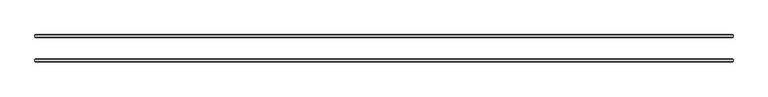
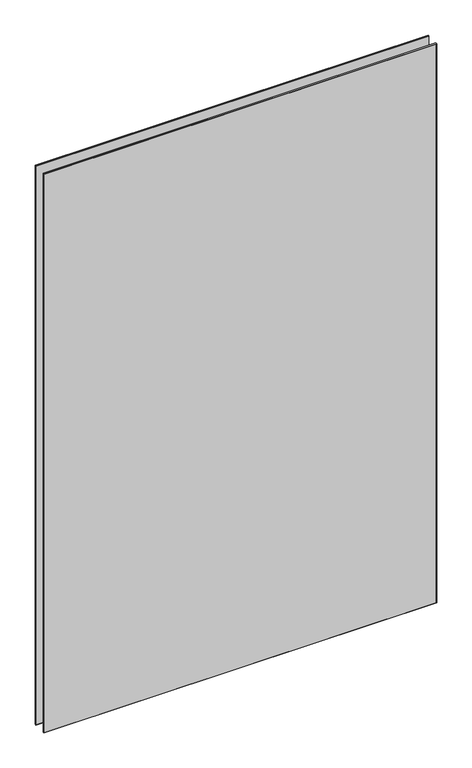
"""IFC4 building model written with IfcOpenShell, lengths in millimetres: plate geometry, 3-AMG-2-Панель двойной витраж 8, 10 : Смещение 32 Толщина 8mm."""

from ifc_helpers import new_model, si_unit, origin, place, context, project, spatial, faceted_brep, source, transform, mapped, element, save


def plate_b24c7fcb(model_context):
    return source(origin(), model_context, "Body", "Brep", [
        faceted_brep([(919.1479348, -34.4961653, 2751.0), (919.1479348, -29.5038347, 2751.0), (-914.1479348, -29.5038347, 2751.0), (-914.1479348, -34.4961653, 2751.0), (919.1479348, -29.5038347, -7.0), (919.1479348, -34.4961653, -7.0), (-914.1479348, -34.4961653, -7.0), (-914.1479348, -29.5038347, -7.0), (-912.6441001, -28.0, 2749.4961653), (917.6441001, -28.0, 2749.4961653), (917.6441001, -28.0, -5.5039422), (-912.6441001, -28.0, -5.5039422), (917.6441001, -36.0, 2749.4961653), (-912.6441001, -36.0, 2749.4961653), (-912.6441001, -36.0, -5.4961653), (917.6441001, -36.0, -5.4961653)], [[[0, 1, 2, 3]], [[4, 5, 6, 7]], [[8, 9, 10, 11]], [[3, 2, 7, 6]], [[12, 13, 14, 15]], [[1, 0, 5, 4]], [[1, 4, 10, 9]], [[5, 0, 12, 15]], [[0, 3, 13, 12]], [[2, 1, 9, 8]], [[7, 2, 8, 11]], [[3, 6, 14, 13]], [[6, 5, 15, 14]], [[4, 7, 11, 10]]]),
        faceted_brep([(919.1479348, 29.5038347, 2751.0), (919.1479348, 34.4961653, 2751.0), (-914.1479348, 34.4961653, 2751.0), (-914.1479348, 29.5038347, 2751.0), (919.1479348, 34.4961653, -7.0), (919.1479348, 29.5038347, -7.0), (-914.1479348, 29.5038347, -7.0), (-914.1479348, 34.4961653, -7.0), (-912.6441001, 36.0, 2749.4961653), (917.6441001, 36.0, 2749.4961653), (917.6441001, 36.0, -5.5039422), (-912.6441001, 36.0, -5.5039422), (917.6441001, 28.0, 2749.4961653), (-912.6441001, 28.0, 2749.4961653), (-912.6441001, 28.0, -5.4961653), (917.6441001, 28.0, -5.4961653)], [[[0, 1, 2, 3]], [[4, 5, 6, 7]], [[8, 9, 10, 11]], [[3, 2, 7, 6]], [[12, 13, 14, 15]], [[1, 0, 5, 4]], [[1, 4, 10, 9]], [[5, 0, 12, 15]], [[7, 2, 8, 11]], [[3, 6, 14, 13]], [[0, 3, 13, 12]], [[2, 1, 9, 8]], [[6, 5, 15, 14]], [[4, 7, 11, 10]]]),
    ])


if __name__ == "__main__":
    model = new_model("IFC4")
    model_context = context("Model", 3, world=origin())
    ifc_project = project(units=[si_unit("LENGTHUNIT", "METRE", prefix="MILLI")], contexts=[model_context])
    site = spatial("IfcSite", under=ifc_project)
    building = spatial("IfcBuilding", under=site)
    placement = place(None, origin())
    plate_shape = plate_b24c7fcb(model_context)
    element("IfcPlate", 1, ObjectType="3-AMG-2-Панель двойной витраж 8, 10 : Смещение 32 Толщина 8mm", at=placement, inside=building, context=model_context, shape_type="MappedRepresentation", body=[
        mapped(plate_shape, transform((0.0, 0.0, 0.0), x_axis=(1.0, 0.0, 0.0), y_axis=(0.0, 1.0, 0.0), z_axis=(0.0, 0.0, 1.0))),
    ])
    save(model, "model.ifc")
